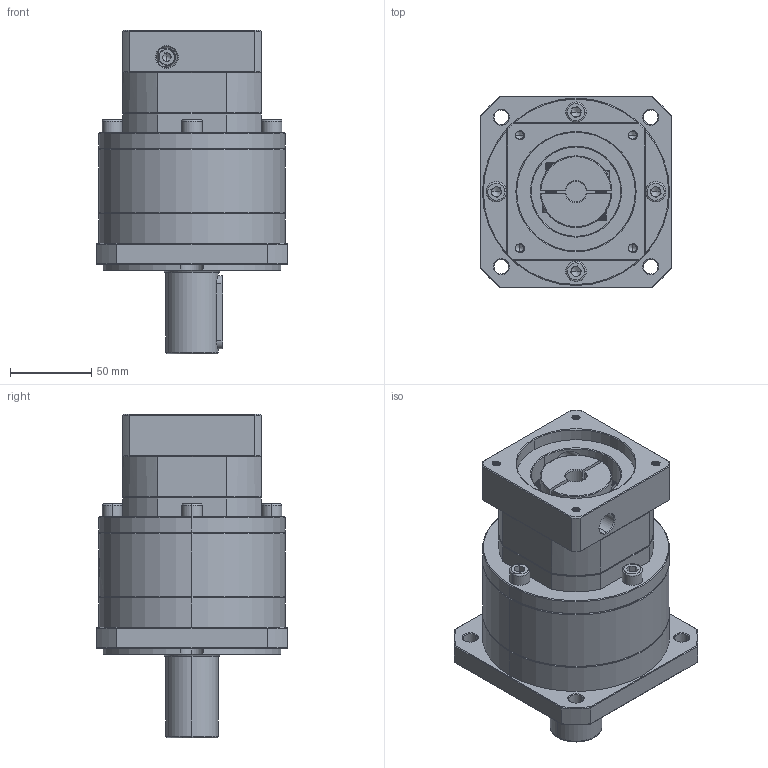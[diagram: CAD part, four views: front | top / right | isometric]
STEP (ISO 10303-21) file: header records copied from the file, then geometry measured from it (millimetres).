
FILE_DESCRIPTION (( 'STEP AP214' ), '1' );
FILE_NAME ('ZF120A-D32-L2-P2-12.7-73-69.6X69.6-M6.step', '2023-08-27T05:58:52', ( '' ), ( '' ), 'SwSTEP 2.0', 'SolidWorks 2016', '' );
FILE_SCHEMA (( 'AUTOMOTIVE_DESIGN' ));
Length unit declared in the file: millimetre
Products named in the file (1): ZF120A-D32-L2-P2-12.7-73-69.6X69.6-M6
Bounding box: 118 x 118 x 199 mm (x, y, z)
Volume: 1292121.5 mm3; surface area: 129031.2 mm2
Topology: 5 solids, 6 shells, 2209 faces, 5868 edges, 3758 vertices
Faces by surface type: plane 1060, bspline 419, cylinder 402, cone 313, torus 15
Entity records: 121210 total; most frequent: CARTESIAN_POINT 47479, ORIENTED_EDGE 11676, DIRECTION 8415, EDGE_CURVE 5838, VERTEX_POINT 3758, VECTOR 3099, LINE 3099, AXIS2_PLACEMENT_3D 2658
